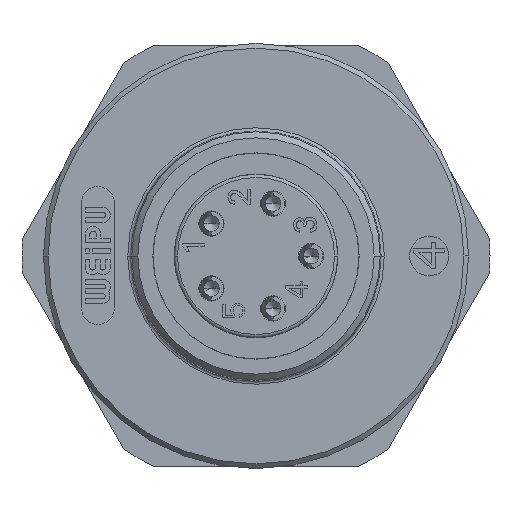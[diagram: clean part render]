
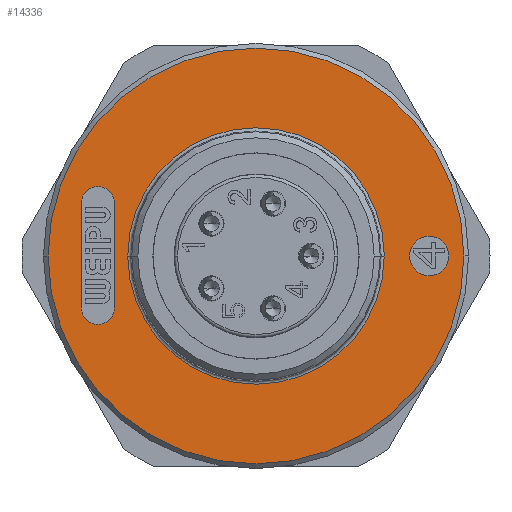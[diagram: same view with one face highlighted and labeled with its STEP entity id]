
A CAD part, left-side view. The second image highlights one B-rep face of the part: STEP entity #14336.
In plain terms, the highlighted planar face has unit normal (-1, 0, 0).
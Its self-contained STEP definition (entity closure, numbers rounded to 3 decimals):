
#4439=CARTESIAN_POINT('',(-2.5,0.,
0.));
#4440=DIRECTION('',(1.,0.,0.));
#4441=DIRECTION('',(0.,-1.,0.));
#4442=AXIS2_PLACEMENT_3D('',#4439,#4440,#4441);
#4444=CARTESIAN_POINT('',(-2.5,0.,
0.));
#4445=DIRECTION('',(1.,0.,0.));
#4446=DIRECTION('',(0.,0.,-1.));
#4447=AXIS2_PLACEMENT_3D('',#4444,#4445,#4446);
#4449=CARTESIAN_POINT('',(-2.5,0.,0.));
#4450=DIRECTION('',(1.,0.,0.));
#4451=DIRECTION('',(0.,1.,0.));
#4452=AXIS2_PLACEMENT_3D('',#4449,#4450,#4451);
#4454=CARTESIAN_POINT('',(-2.5,0.,0.));
#4455=DIRECTION('',(1.,0.,0.));
#4456=DIRECTION('',(0.,0.,1.));
#4457=AXIS2_PLACEMENT_3D('',#4454,#4455,#4456);
#4459=CARTESIAN_POINT('',(-2.5,0.,0.));
#4460=DIRECTION('',(-1.,0.,0.));
#4461=DIRECTION('',(0.,-1.,0.));
#4462=AXIS2_PLACEMENT_3D('',#4459,#4460,#4461);
#4464=CARTESIAN_POINT('',(-2.5,0.,0.));
#4465=DIRECTION('',(-1.,0.,0.));
#4466=DIRECTION('',(0.,-1.,0.009));
#4467=AXIS2_PLACEMENT_3D('',#4464,#4465,#4466);
#4469=CARTESIAN_POINT('',(-2.5,0.,0.));
#4470=DIRECTION('',(-1.,0.,0.));
#4471=DIRECTION('',(0.,1.,0.));
#4472=AXIS2_PLACEMENT_3D('',#4469,#4470,#4471);
#4474=CARTESIAN_POINT('',(-2.5,0.,0.));
#4475=DIRECTION('',(-1.,0.,0.));
#4476=DIRECTION('',(0.,1.,-0.009));
#4477=AXIS2_PLACEMENT_3D('',#4474,#4475,#4476);
#4479=CARTESIAN_POINT('',(-2.5,10.045,-3.3));
#4480=DIRECTION('',(-1.,0.,0.));
#4481=DIRECTION('',(0.,1.,0.));
#4482=AXIS2_PLACEMENT_3D('',#4479,#4480,#4481);
#4484=CARTESIAN_POINT('',(-2.5,10.045,-3.3));
#4485=DIRECTION('',(-1.,0.,0.));
#4486=DIRECTION('',(0.,0.,-1.));
#4487=AXIS2_PLACEMENT_3D('',#4484,#4485,#4486);
#4489=CARTESIAN_POINT('',(-2.5,10.045,3.37));
#4490=DIRECTION('',(-1.,0.,0.));
#4491=DIRECTION('',(0.,-1.,0.));
#4492=AXIS2_PLACEMENT_3D('',#4489,#4490,#4491);
#4494=CARTESIAN_POINT('',(-2.5,10.045,3.37));
#4495=DIRECTION('',(-1.,0.,0.));
#4496=DIRECTION('',(0.,0.,1.));
#4497=AXIS2_PLACEMENT_3D('',#4494,#4495,#4496);
#4499=CARTESIAN_POINT('',(-2.5,-11.,0.));
#4500=DIRECTION('',(-1.,0.,0.));
#4501=DIRECTION('',(0.,0.,1.));
#4502=AXIS2_PLACEMENT_3D('',#4499,#4500,#4501);
#4504=CARTESIAN_POINT('',(-2.5,-11.,0.));
#4505=DIRECTION('',(-1.,0.,0.));
#4506=DIRECTION('',(0.,0.,-1.));
#4507=AXIS2_PLACEMENT_3D('',#4504,#4505,#4506);
#6977=DIRECTION('',(0.,0.,1.));
#6978=VECTOR('',#6977,6.67);
#6979=CARTESIAN_POINT('',(-2.5,11.09,-3.3));
#6980=LINE('',#6979,#6978);
#6989=DIRECTION('',(0.,0.,-1.));
#6990=VECTOR('',#6989,6.67);
#6991=CARTESIAN_POINT('',(-2.5,9.,3.37));
#6992=LINE('',#6991,#6990);
#8214=CARTESIAN_POINT('',(-2.5,-8.144,0.));
#8215=CARTESIAN_POINT('',(-2.5,-8.143,0.072));
#8216=VERTEX_POINT('',#8214);
#8217=VERTEX_POINT('',#8215);
#8220=CARTESIAN_POINT('',(-2.5,8.144,0.));
#8221=CARTESIAN_POINT('',(-2.5,8.143,-0.072));
#8222=VERTEX_POINT('',#8220);
#8223=VERTEX_POINT('',#8221);
#8224=CARTESIAN_POINT('',(-2.5,-13.2,0.));
#8225=CARTESIAN_POINT('',(-2.5,0.,-13.2));
#8226=VERTEX_POINT('',#8224);
#8227=VERTEX_POINT('',#8225);
#8228=CARTESIAN_POINT('',(-2.5,13.2,0.));
#8229=VERTEX_POINT('',#8228);
#8230=CARTESIAN_POINT('',(-2.5,0.,13.2));
#8231=VERTEX_POINT('',#8230);
#8232=CARTESIAN_POINT('',(-2.5,11.09,-3.3));
#8233=CARTESIAN_POINT('',(-2.5,10.045,-4.345));
#8234=VERTEX_POINT('',#8232);
#8235=VERTEX_POINT('',#8233);
#8236=CARTESIAN_POINT('',(-2.5,9.,-3.3));
#8237=VERTEX_POINT('',#8236);
#8238=CARTESIAN_POINT('',(-2.5,9.,3.37));
#8239=CARTESIAN_POINT('',(-2.5,10.045,4.415));
#8240=VERTEX_POINT('',#8238);
#8241=VERTEX_POINT('',#8239);
#8242=CARTESIAN_POINT('',(-2.5,11.09,3.37));
#8243=VERTEX_POINT('',#8242);
#8244=CARTESIAN_POINT('',(-2.5,-11.,1.25));
#8245=CARTESIAN_POINT('',(-2.5,-11.,-1.25));
#8246=VERTEX_POINT('',#8244);
#8247=VERTEX_POINT('',#8245);
#14293=CARTESIAN_POINT('',(-2.5,0.,0.));
#14294=DIRECTION('',(1.,0.,0.));
#14295=DIRECTION('',(0.,-1.,0.));
#14296=AXIS2_PLACEMENT_3D('',#14293,#14294,#14295);
#14297=PLANE('',#14296);
#14298=ORIENTED_EDGE('',*,*,#14282,.T.);
#14299=ORIENTED_EDGE('',*,*,#14280,.T.);
#14301=ORIENTED_EDGE('',*,*,#14300,.T.);
#14303=ORIENTED_EDGE('',*,*,#14302,.T.);
#14304=EDGE_LOOP('',(#14298,#14299,#14301,#14303));
#14305=FACE_OUTER_BOUND('',#14304,.F.);
#14307=ORIENTED_EDGE('',*,*,#14306,.T.);
#14309=ORIENTED_EDGE('',*,*,#14308,.T.);
#14311=ORIENTED_EDGE('',*,*,#14310,.T.);
#14313=ORIENTED_EDGE('',*,*,#14312,.T.);
#14314=EDGE_LOOP('',(#14307,#14309,#14311,#14313));
#14315=FACE_BOUND('',#14314,.F.);
#14317=ORIENTED_EDGE('',*,*,#14316,.T.);
#14319=ORIENTED_EDGE('',*,*,#14318,.T.);
#14321=ORIENTED_EDGE('',*,*,#14320,.F.);
#14323=ORIENTED_EDGE('',*,*,#14322,.T.);
#14325=ORIENTED_EDGE('',*,*,#14324,.T.);
#14327=ORIENTED_EDGE('',*,*,#14326,.F.);
#14328=EDGE_LOOP('',(#14317,#14319,#14321,#14323,#14325,#14327));
#14329=FACE_BOUND('',#14328,.F.);
#14331=ORIENTED_EDGE('',*,*,#14330,.T.);
#14333=ORIENTED_EDGE('',*,*,#14332,.T.);
#14334=EDGE_LOOP('',(#14331,#14333));
#14335=FACE_BOUND('',#14334,.F.);
#14336=ADVANCED_FACE('',(#14305,#14315,#14329,#14335),#14297,.F.);
#4443=CIRCLE('',#4442,13.2);
#4448=CIRCLE('',#4447,13.2);
#4453=CIRCLE('',#4452,13.2);
#4458=CIRCLE('',#4457,13.2);
#4463=CIRCLE('',#4462,8.144);
#4468=CIRCLE('',#4467,8.144);
#4473=CIRCLE('',#4472,8.144);
#4478=CIRCLE('',#4477,8.144);
#4483=CIRCLE('',#4482,1.045);
#4488=CIRCLE('',#4487,1.045);
#4493=CIRCLE('',#4492,1.045);
#4498=CIRCLE('',#4497,1.045);
#4503=CIRCLE('',#4502,1.25);
#4508=CIRCLE('',#4507,1.25);
#14280=EDGE_CURVE('',#8227,#8229,#4448,.T.);
#14282=EDGE_CURVE('',#8226,#8227,#4443,.T.);
#14300=EDGE_CURVE('',#8229,#8231,#4453,.T.);
#14302=EDGE_CURVE('',#8231,#8226,#4458,.T.);
#14306=EDGE_CURVE('',#8216,#8217,#4463,.T.);
#14308=EDGE_CURVE('',#8217,#8222,#4468,.T.);
#14310=EDGE_CURVE('',#8222,#8223,#4473,.T.);
#14312=EDGE_CURVE('',#8223,#8216,#4478,.T.);
#14316=EDGE_CURVE('',#8234,#8235,#4483,.T.);
#14318=EDGE_CURVE('',#8235,#8237,#4488,.T.);
#14320=EDGE_CURVE('',#8240,#8237,#6992,.T.);
#14322=EDGE_CURVE('',#8240,#8241,#4493,.T.);
#14324=EDGE_CURVE('',#8241,#8243,#4498,.T.);
#14326=EDGE_CURVE('',#8234,#8243,#6980,.T.);
#14330=EDGE_CURVE('',#8246,#8247,#4503,.T.);
#14332=EDGE_CURVE('',#8247,#8246,#4508,.T.);
